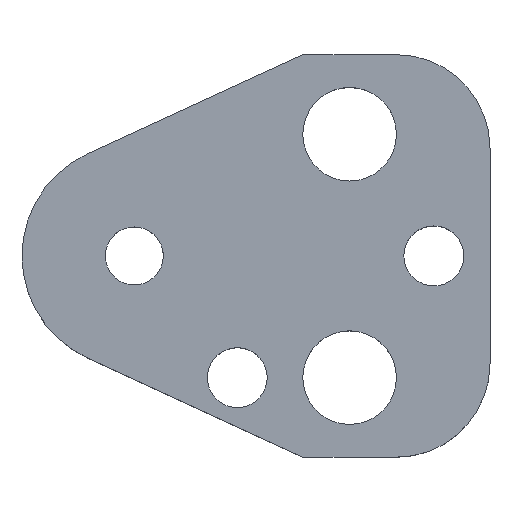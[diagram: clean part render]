
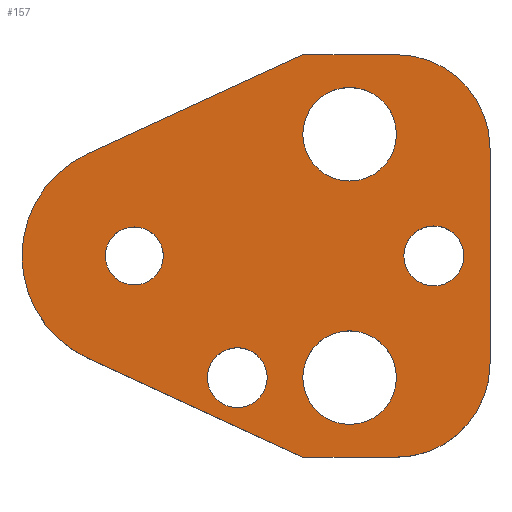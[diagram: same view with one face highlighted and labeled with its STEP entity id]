
A CAD part, top view. The second image highlights one B-rep face of the part: STEP entity #157.
In plain terms, the highlighted planar face has unit normal (0, 0, 1).
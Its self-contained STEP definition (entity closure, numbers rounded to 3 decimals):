
#103=FACE_BOUND('',#207,.T.);
#104=FACE_BOUND('',#208,.T.);
#105=FACE_BOUND('',#209,.T.);
#106=FACE_BOUND('',#210,.T.);
#107=FACE_BOUND('',#211,.T.);
#108=FACE_BOUND('',#212,.T.);
#122=CIRCLE('',#480,10.);
#124=CIRCLE('',#484,10.);
#127=CIRCLE('',#490,12.);
#138=CIRCLE('',#503,3.2);
#139=CIRCLE('',#504,3.2);
#140=CIRCLE('',#505,5.);
#141=CIRCLE('',#506,5.);
#142=CIRCLE('',#507,5.);
#143=CIRCLE('',#508,5.);
#144=CIRCLE('',#509,3.2);
#145=CIRCLE('',#510,3.2);
#146=CIRCLE('',#511,3.1);
#147=CIRCLE('',#512,3.1);
#157=ADVANCED_FACE('',(#103,#104,#105,#106,#107,#108),#174,.T.);
#174=PLANE('',#513);
#207=EDGE_LOOP('',(#273,#274,#275,#276,#277,#278,#279,#280));
#208=EDGE_LOOP('',(#281,#282));
#209=EDGE_LOOP('',(#283,#284));
#210=EDGE_LOOP('',(#285,#286));
#211=EDGE_LOOP('',(#287,#288));
#212=EDGE_LOOP('',(#289,#290));
#273=ORIENTED_EDGE('',*,*,#368,.T.);
#274=ORIENTED_EDGE('',*,*,#372,.T.);
#275=ORIENTED_EDGE('',*,*,#375,.T.);
#276=ORIENTED_EDGE('',*,*,#378,.T.);
#277=ORIENTED_EDGE('',*,*,#381,.T.);
#278=ORIENTED_EDGE('',*,*,#384,.T.);
#279=ORIENTED_EDGE('',*,*,#387,.T.);
#280=ORIENTED_EDGE('',*,*,#390,.T.);
#281=ORIENTED_EDGE('',*,*,#401,.T.);
#282=ORIENTED_EDGE('',*,*,#402,.T.);
#283=ORIENTED_EDGE('',*,*,#403,.T.);
#284=ORIENTED_EDGE('',*,*,#404,.T.);
#285=ORIENTED_EDGE('',*,*,#405,.T.);
#286=ORIENTED_EDGE('',*,*,#406,.T.);
#287=ORIENTED_EDGE('',*,*,#407,.T.);
#288=ORIENTED_EDGE('',*,*,#408,.T.);
#289=ORIENTED_EDGE('',*,*,#409,.T.);
#290=ORIENTED_EDGE('',*,*,#410,.T.);
#332=VERTEX_POINT('',#649);
#333=VERTEX_POINT('',#651);
#336=VERTEX_POINT('',#658);
#338=VERTEX_POINT('',#664);
#340=VERTEX_POINT('',#670);
#342=VERTEX_POINT('',#676);
#344=VERTEX_POINT('',#682);
#346=VERTEX_POINT('',#688);
#357=VERTEX_POINT('',#717);
#358=VERTEX_POINT('',#718);
#359=VERTEX_POINT('',#721);
#360=VERTEX_POINT('',#722);
#361=VERTEX_POINT('',#725);
#362=VERTEX_POINT('',#726);
#363=VERTEX_POINT('',#729);
#364=VERTEX_POINT('',#730);
#365=VERTEX_POINT('',#733);
#366=VERTEX_POINT('',#734);
#368=EDGE_CURVE('',#333,#332,#422,.T.);
#372=EDGE_CURVE('',#332,#336,#426,.T.);
#375=EDGE_CURVE('',#336,#338,#122,.T.);
#378=EDGE_CURVE('',#338,#340,#430,.T.);
#381=EDGE_CURVE('',#340,#342,#124,.T.);
#384=EDGE_CURVE('',#342,#344,#434,.T.);
#387=EDGE_CURVE('',#344,#346,#437,.T.);
#390=EDGE_CURVE('',#346,#333,#127,.T.);
#401=EDGE_CURVE('',#357,#358,#138,.T.);
#402=EDGE_CURVE('',#358,#357,#139,.T.);
#403=EDGE_CURVE('',#359,#360,#140,.T.);
#404=EDGE_CURVE('',#360,#359,#141,.T.);
#405=EDGE_CURVE('',#361,#362,#142,.T.);
#406=EDGE_CURVE('',#362,#361,#143,.T.);
#407=EDGE_CURVE('',#363,#364,#144,.T.);
#408=EDGE_CURVE('',#364,#363,#145,.T.);
#409=EDGE_CURVE('',#365,#366,#146,.T.);
#410=EDGE_CURVE('',#366,#365,#147,.T.);
#422=LINE('',#650,#450);
#426=LINE('',#659,#454);
#430=LINE('',#671,#458);
#434=LINE('',#683,#462);
#437=LINE('',#689,#465);
#450=VECTOR('',#527,1.);
#454=VECTOR('',#533,1.);
#458=VECTOR('',#545,1.);
#462=VECTOR('',#557,1.);
#465=VECTOR('',#562,1.);
#480=AXIS2_PLACEMENT_3D('',#665,#538,#539);
#484=AXIS2_PLACEMENT_3D('',#677,#550,#551);
#490=AXIS2_PLACEMENT_3D('',#693,#568,#569);
#503=AXIS2_PLACEMENT_3D('',#716,#594,#595);
#504=AXIS2_PLACEMENT_3D('',#719,#596,#597);
#505=AXIS2_PLACEMENT_3D('',#720,#598,#599);
#506=AXIS2_PLACEMENT_3D('',#723,#600,#601);
#507=AXIS2_PLACEMENT_3D('',#724,#602,#603);
#508=AXIS2_PLACEMENT_3D('',#727,#604,#605);
#509=AXIS2_PLACEMENT_3D('',#728,#606,#607);
#510=AXIS2_PLACEMENT_3D('',#731,#608,#609);
#511=AXIS2_PLACEMENT_3D('',#732,#610,#611);
#512=AXIS2_PLACEMENT_3D('',#735,#612,#613);
#513=AXIS2_PLACEMENT_3D('',#736,#614,#615);
#527=DIRECTION('',(0.908,-0.418,0.));
#533=DIRECTION('',(1.,0.,0.));
#538=DIRECTION('',(0.,0.,1.));
#539=DIRECTION('',(-0.707,0.707,0.));
#545=DIRECTION('',(0.,1.,0.));
#550=DIRECTION('',(0.,0.,1.));
#551=DIRECTION('',(-0.707,-0.707,0.));
#557=DIRECTION('',(-1.,0.,0.));
#562=DIRECTION('',(-0.908,-0.418,0.));
#568=DIRECTION('',(0.,0.,1.));
#569=DIRECTION('',(1.,0.,0.));
#594=DIRECTION('',(0.,0.,-1.));
#595=DIRECTION('',(-1.,0.,0.));
#596=DIRECTION('',(0.,0.,-1.));
#597=DIRECTION('',(1.,0.,0.));
#598=DIRECTION('',(0.,0.,-1.));
#599=DIRECTION('',(-1.,0.,0.));
#600=DIRECTION('',(0.,0.,-1.));
#601=DIRECTION('',(1.,0.,0.));
#602=DIRECTION('',(0.,0.,-1.));
#603=DIRECTION('',(-1.,0.,0.));
#604=DIRECTION('',(0.,0.,-1.));
#605=DIRECTION('',(1.,0.,0.));
#606=DIRECTION('',(0.,0.,-1.));
#607=DIRECTION('',(-1.,0.,0.));
#608=DIRECTION('',(0.,0.,-1.));
#609=DIRECTION('',(1.,0.,0.));
#610=DIRECTION('',(0.,0.,-1.));
#611=DIRECTION('',(-1.,0.,0.));
#612=DIRECTION('',(0.,0.,-1.));
#613=DIRECTION('',(1.,0.,0.));
#614=DIRECTION('',(0.,0.,1.));
#615=DIRECTION('',(0.908,-0.418,0.));
#649=CARTESIAN_POINT('',(18.,-21.5,8.));
#650=CARTESIAN_POINT('',(18.,-21.5,8.));
#651=CARTESIAN_POINT('',(-5.019,-10.9,8.));
#658=CARTESIAN_POINT('',(28.,-21.5,8.));
#659=CARTESIAN_POINT('',(18.,-21.5,8.));
#664=CARTESIAN_POINT('',(38.,-11.5,8.));
#665=CARTESIAN_POINT('',(28.,-11.5,8.));
#670=CARTESIAN_POINT('',(38.,11.5,8.));
#671=CARTESIAN_POINT('',(38.,11.5,8.));
#676=CARTESIAN_POINT('',(28.,21.5,8.));
#677=CARTESIAN_POINT('',(28.,11.5,8.));
#682=CARTESIAN_POINT('',(18.,21.5,8.));
#683=CARTESIAN_POINT('',(18.,21.5,8.));
#688=CARTESIAN_POINT('',(-5.019,10.9,8.));
#689=CARTESIAN_POINT('',(18.,21.5,8.));
#693=CARTESIAN_POINT('',(0.,0.,8.));
#716=CARTESIAN_POINT('',(32.,0.,8.));
#717=CARTESIAN_POINT('',(32.,3.2,8.));
#718=CARTESIAN_POINT('',(32.,-3.2,8.));
#719=CARTESIAN_POINT('',(32.,0.,8.));
#720=CARTESIAN_POINT('',(23.,13.,8.));
#721=CARTESIAN_POINT('',(23.,18.,8.));
#722=CARTESIAN_POINT('',(23.,8.,8.));
#723=CARTESIAN_POINT('',(23.,13.,8.));
#724=CARTESIAN_POINT('',(23.,-13.,8.));
#725=CARTESIAN_POINT('',(23.,-8.,8.));
#726=CARTESIAN_POINT('',(23.,-18.,8.));
#727=CARTESIAN_POINT('',(23.,-13.,8.));
#728=CARTESIAN_POINT('',(11.,-13.,8.));
#729=CARTESIAN_POINT('',(11.,-9.8,8.));
#730=CARTESIAN_POINT('',(11.,-16.2,8.));
#731=CARTESIAN_POINT('',(11.,-13.,8.));
#732=CARTESIAN_POINT('',(0.,0.,8.));
#733=CARTESIAN_POINT('',(0.,3.1,8.));
#734=CARTESIAN_POINT('',(0.,-3.1,8.));
#735=CARTESIAN_POINT('',(0.,0.,8.));
#736=CARTESIAN_POINT('',(-5.019,-10.9,8.));
